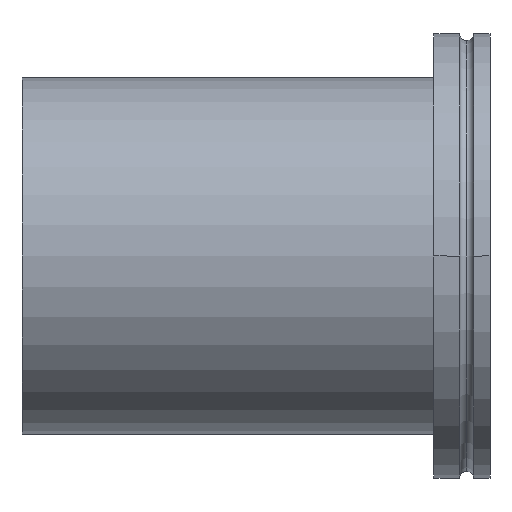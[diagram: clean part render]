
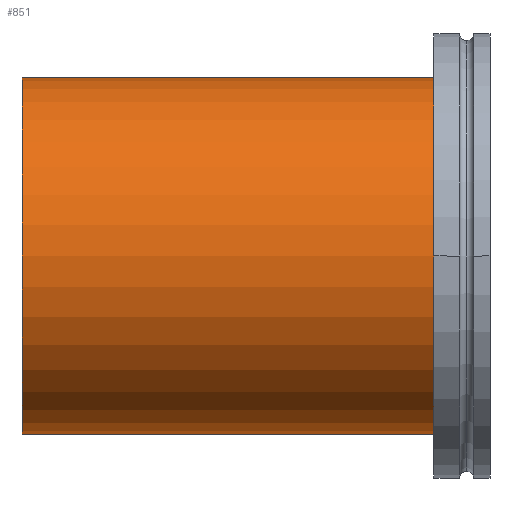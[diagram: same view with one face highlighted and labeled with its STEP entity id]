
A CAD part, front view. The second image highlights one B-rep face of the part: STEP entity #851.
In plain terms, the highlighted cylindrical face has radius 38.05 mm (diameter 76.1 mm), a partial arc.
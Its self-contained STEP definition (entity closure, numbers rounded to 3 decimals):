
#705=CARTESIAN_POINT('',(-88.0,0.,-38.05));
#706=VERTEX_POINT('',#705);
#707=CARTESIAN_POINT('',(6.0,0.,-38.05));
#708=VERTEX_POINT('',#707);
#709=CARTESIAN_POINT('',(-88.0,0.,-38.05));
#710=DIRECTION('',(1.0,0.0,0.0));
#711=VECTOR('',#710,94.0);
#712=LINE('',#709,#711);
#713=EDGE_CURVE('',#706,#708,#712,.T.);
#715=CARTESIAN_POINT('',(-88.0,0.,38.05));
#716=VERTEX_POINT('',#715);
#724=CARTESIAN_POINT('',(6.,0.,38.05));
#725=VERTEX_POINT('',#724);
#726=CARTESIAN_POINT('',(6.,0.,38.05));
#727=DIRECTION('',(-1.0,0.0,0.0));
#728=VECTOR('',#727,94.0);
#729=LINE('',#726,#728);
#730=EDGE_CURVE('',#725,#716,#729,.T.);
#828=CARTESIAN_POINT('',(-88.0,0.0,0.0));
#829=DIRECTION('',(1.0,0.0,0.0));
#830=DIRECTION('',(0.0,0.0,-1.0));
#831=AXIS2_PLACEMENT_3D('',#828,#829,#830);
#832=CYLINDRICAL_SURFACE('',#831,38.05);
#833=ORIENTED_EDGE('',*,*,#713,.T.);
#834=CARTESIAN_POINT('',(6.,0.0,0.0));
#835=DIRECTION('',(1.0,0.0,0.0));
#836=DIRECTION('',(0.0,0.0,-1.0));
#837=AXIS2_PLACEMENT_3D('',#834,#835,#836);
#838=CIRCLE('',#837,38.05);
#839=EDGE_CURVE('',#725,#708,#838,.T.);
#840=ORIENTED_EDGE('',*,*,#839,.F.);
#841=ORIENTED_EDGE('',*,*,#730,.T.);
#842=CARTESIAN_POINT('',(-88.0,0.0,0.0));
#843=DIRECTION('',(-1.0,0.0,0.0));
#844=DIRECTION('',(0.0,0.0,-1.0));
#845=AXIS2_PLACEMENT_3D('',#842,#843,#844);
#846=CIRCLE('',#845,38.05);
#847=EDGE_CURVE('',#706,#716,#846,.T.);
#848=ORIENTED_EDGE('',*,*,#847,.F.);
#849=EDGE_LOOP('',(#833,#840,#841,#848));
#850=FACE_OUTER_BOUND('',#849,.T.);
#851=ADVANCED_FACE('',(#850),#832,.T.);
